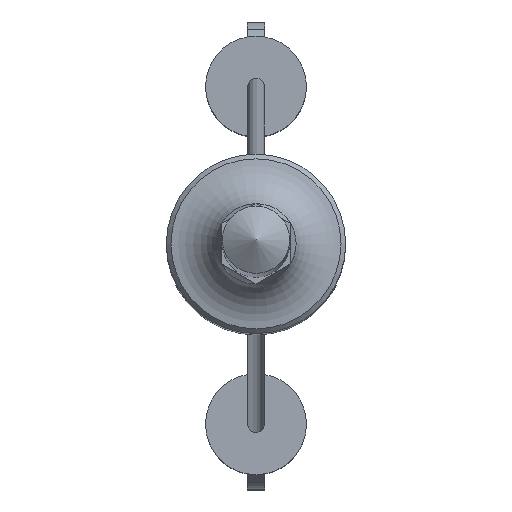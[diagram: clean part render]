
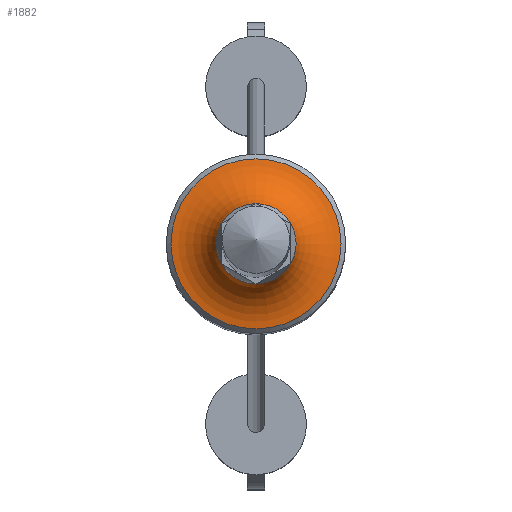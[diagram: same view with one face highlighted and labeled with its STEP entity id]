
A CAD part, top view. The second image highlights one B-rep face of the part: STEP entity #1882.
In plain terms, the highlighted toroidal (fillet/blend) face has major radius 4 mm and minor radius 2.378 mm.
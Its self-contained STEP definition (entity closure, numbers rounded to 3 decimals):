
#6 = EDGE_LOOP ( 'NONE', ( #1242 ) ) ;
#13 = CARTESIAN_POINT ( 'NONE',  ( 1.79, -0.16, -3.5 ) ) ;
#17 = CARTESIAN_POINT ( 'NONE',  ( -1.79, -0.16, -3.5 ) ) ;
#33 = CARTESIAN_POINT ( 'NONE',  ( 1.625, 0.766, -3.5 ) ) ;
#42 = CARTESIAN_POINT ( 'NONE',  ( 1.476, -1.024, -3.5 ) ) ;
#48 = CARTESIAN_POINT ( 'NONE',  ( -1.625, 0.766, -3.5 ) ) ;
#58 = FACE_OUTER_BOUND ( 'NONE', #1800, .T. ) ;
#79 = CARTESIAN_POINT ( 'NONE',  ( 1.55, 0.895, -3.5 ) ) ;
#115 = CARTESIAN_POINT ( 'NONE',  ( 0., 1.79, -3.5 ) ) ;
#137 = CARTESIAN_POINT ( 'NONE',  ( -0.607, 1.691, -3.5 ) ) ;
#170 = CARTESIAN_POINT ( 'NONE',  ( -1.55, -0.895, -3.5 ) ) ;
#175 = TOROIDAL_SURFACE ( 'NONE', #1176, 4., 2.378 ) ;
#179 = ORIENTED_EDGE ( 'NONE', *, *, #463, .F. ) ;
#188 = FACE_OUTER_BOUND ( 'NONE', #6, .T. ) ;
#189 = ORIENTED_EDGE ( 'NONE', *, *, #1764, .F. ) ;
#192 = CARTESIAN_POINT ( 'NONE',  ( 0.304, 1.771, -3.5 ) ) ;
#197 = DIRECTION ( 'NONE',  ( 1., 0., 0. ) ) ;
#201 = VERTEX_POINT ( 'NONE', #966 ) ;
#203 = CARTESIAN_POINT ( 'NONE',  ( 1.55, -0.895, -3.5 ) ) ;
#267 = B_SPLINE_CURVE_WITH_KNOTS ( 'NONE', 3,
 ( #1980, #1991, #1472, #491, #853, #1320, #1669, #192, #326, #511 ),
 .UNSPECIFIED., .F., .F.,
 ( 4, 2, 2, 2, 4 ),
 ( 0., 0.25, 0.5, 0.75, 1. ),
 .UNSPECIFIED. ) ;
#268 = EDGE_CURVE ( 'NONE', #1498, #1046, #267, .T. ) ;
#281 = AXIS2_PLACEMENT_3D ( 'NONE', #705, #1972, #1693 ) ;
#326 = CARTESIAN_POINT ( 'NONE',  ( 0.149, 1.79, -3.5 ) ) ;
#368 = CARTESIAN_POINT ( 'NONE',  ( 1.55, -0.895, -3.5 ) ) ;
#378 = CARTESIAN_POINT ( 'NONE',  ( 1.768, 0.32, -3.5 ) ) ;
#396 = CARTESIAN_POINT ( 'NONE',  ( -1.686, 0.623, -3.5 ) ) ;
#463 = EDGE_CURVE ( 'NONE', #201, #1024, #474, .T. ) ;
#474 = B_SPLINE_CURVE_WITH_KNOTS ( 'NONE', 3,
 ( #1712, #1722, #1028, #1843, #2003, #1393, #1543, #2013, #42, #368 ),
 .UNSPECIFIED., .F., .F.,
 ( 4, 2, 2, 2, 4 ),
 ( 0., 0.25, 0.5, 0.75, 1. ),
 .UNSPECIFIED. ) ;
#476 = CARTESIAN_POINT ( 'NONE',  ( -0.304, -1.771, -3.5 ) ) ;
#481 = CARTESIAN_POINT ( 'NONE',  ( -1.033, 1.47, -3.5 ) ) ;
#487 = VERTEX_POINT ( 'NONE', #1931 ) ;
#491 = CARTESIAN_POINT ( 'NONE',  ( 1.161, 1.371, -3.5 ) ) ;
#511 = CARTESIAN_POINT ( 'NONE',  ( 0., 1.79, -3.5 ) ) ;
#518 = CARTESIAN_POINT ( 'NONE',  ( -1.686, -0.623, -3.5 ) ) ;
#525 = CARTESIAN_POINT ( 'NONE',  ( 1.768, -0.32, -3.5 ) ) ;
#573 = VERTEX_POINT ( 'NONE', #756 ) ;
#597 = ORIENTED_EDGE ( 'NONE', *, *, #796, .F. ) ;
#641 = CARTESIAN_POINT ( 'NONE',  ( -0.607, -1.691, -3.5 ) ) ;
#705 = CARTESIAN_POINT ( 'NONE',  ( 0., 0., -4.991 ) ) ;
#756 = CARTESIAN_POINT ( 'NONE',  ( -1.55, -0.895, -3.5 ) ) ;
#771 = CARTESIAN_POINT ( 'NONE',  ( -0.149, 1.79, -3.5 ) ) ;
#774 = CARTESIAN_POINT ( 'NONE',  ( -1.55, -0.895, -3.5 ) ) ;
#796 = EDGE_CURVE ( 'NONE', #573, #201, #1334, .T. ) ;
#817 = B_SPLINE_CURVE_WITH_KNOTS ( 'NONE', 3,
 ( #1212, #48, #396, #1054, #1496, #17, #1985, #518, #1171, #774 ),
 .UNSPECIFIED., .F., .F.,
 ( 4, 2, 2, 2, 4 ),
 ( 0., 0.25, 0.5, 0.75, 1. ),
 .UNSPECIFIED. ) ;
#825 = CARTESIAN_POINT ( 'NONE',  ( 1.55, -0.895, -3.5 ) ) ;
#853 = CARTESIAN_POINT ( 'NONE',  ( 1.033, 1.47, -3.5 ) ) ;
#930 = ORIENTED_EDGE ( 'NONE', *, *, #1973, .F. ) ;
#956 = B_SPLINE_CURVE_WITH_KNOTS ( 'NONE', 3,
 ( #115, #771, #1923, #137, #1783, #481, #1429, #2103, #1935, #2082 ),
 .UNSPECIFIED., .F., .F.,
 ( 4, 2, 2, 2, 4 ),
 ( 0., 0.25, 0.5, 0.75, 1. ),
 .UNSPECIFIED. ) ;
#966 = CARTESIAN_POINT ( 'NONE',  ( 0., -1.79, -3.5 ) ) ;
#1024 = VERTEX_POINT ( 'NONE', #825 ) ;
#1028 = CARTESIAN_POINT ( 'NONE',  ( 0.304, -1.771, -3.5 ) ) ;
#1046 = VERTEX_POINT ( 'NONE', #1983 ) ;
#1054 = CARTESIAN_POINT ( 'NONE',  ( -1.768, 0.32, -3.5 ) ) ;
#1128 = B_SPLINE_CURVE_WITH_KNOTS ( 'NONE', 3,
 ( #203, #1650, #1511, #525, #13, #1189, #378, #1846, #33, #1821 ),
 .UNSPECIFIED., .F., .F.,
 ( 4, 2, 2, 2, 4 ),
 ( 0., 0.25, 0.5, 0.75, 1. ),
 .UNSPECIFIED. ) ;
#1154 = CARTESIAN_POINT ( 'NONE',  ( -0.757, -1.63, -3.5 ) ) ;
#1171 = CARTESIAN_POINT ( 'NONE',  ( -1.625, -0.766, -3.5 ) ) ;
#1176 = AXIS2_PLACEMENT_3D ( 'NONE', #1345, #1872, #197 ) ;
#1189 = CARTESIAN_POINT ( 'NONE',  ( 1.79, 0.16, -3.5 ) ) ;
#1212 = CARTESIAN_POINT ( 'NONE',  ( -1.55, 0.895, -3.5 ) ) ;
#1242 = ORIENTED_EDGE ( 'NONE', *, *, #1780, .T. ) ;
#1297 = CARTESIAN_POINT ( 'NONE',  ( -0.149, -1.79, -3.5 ) ) ;
#1316 = CARTESIAN_POINT ( 'NONE',  ( -1.161, -1.371, -3.5 ) ) ;
#1320 = CARTESIAN_POINT ( 'NONE',  ( 0.757, 1.63, -3.5 ) ) ;
#1334 = B_SPLINE_CURVE_WITH_KNOTS ( 'NONE', 3,
 ( #170, #1499, #1630, #1316, #1949, #1154, #641, #476, #1297, #1968 ),
 .UNSPECIFIED., .F., .F.,
 ( 4, 2, 2, 2, 4 ),
 ( 0., 0.25, 0.5, 0.75, 1. ),
 .UNSPECIFIED. ) ;
#1345 = CARTESIAN_POINT ( 'NONE',  ( 0., 0., -2.622 ) ) ;
#1383 = EDGE_CURVE ( 'NONE', #1046, #487, #956, .T. ) ;
#1393 = CARTESIAN_POINT ( 'NONE',  ( 1.033, -1.47, -3.5 ) ) ;
#1413 = ORIENTED_EDGE ( 'NONE', *, *, #1383, .F. ) ;
#1429 = CARTESIAN_POINT ( 'NONE',  ( -1.161, 1.371, -3.5 ) ) ;
#1456 = CARTESIAN_POINT ( 'NONE',  ( 3.791, 0., -4.991 ) ) ;
#1472 = CARTESIAN_POINT ( 'NONE',  ( 1.382, 1.148, -3.5 ) ) ;
#1496 = CARTESIAN_POINT ( 'NONE',  ( -1.79, 0.16, -3.5 ) ) ;
#1498 = VERTEX_POINT ( 'NONE', #79 ) ;
#1499 = CARTESIAN_POINT ( 'NONE',  ( -1.476, -1.024, -3.5 ) ) ;
#1511 = CARTESIAN_POINT ( 'NONE',  ( 1.686, -0.623, -3.5 ) ) ;
#1543 = CARTESIAN_POINT ( 'NONE',  ( 1.161, -1.371, -3.5 ) ) ;
#1630 = CARTESIAN_POINT ( 'NONE',  ( -1.382, -1.148, -3.5 ) ) ;
#1645 = VERTEX_POINT ( 'NONE', #1456 ) ;
#1650 = CARTESIAN_POINT ( 'NONE',  ( 1.625, -0.766, -3.5 ) ) ;
#1669 = CARTESIAN_POINT ( 'NONE',  ( 0.607, 1.691, -3.5 ) ) ;
#1693 = DIRECTION ( 'NONE',  ( 1., 0., 0. ) ) ;
#1712 = CARTESIAN_POINT ( 'NONE',  ( 0., -1.79, -3.5 ) ) ;
#1722 = CARTESIAN_POINT ( 'NONE',  ( 0.149, -1.79, -3.5 ) ) ;
#1764 = EDGE_CURVE ( 'NONE', #1024, #1498, #1128, .T. ) ;
#1780 = EDGE_CURVE ( 'NONE', #1645, #1645, #1897, .T. ) ;
#1783 = CARTESIAN_POINT ( 'NONE',  ( -0.757, 1.63, -3.5 ) ) ;
#1800 = EDGE_LOOP ( 'NONE', ( #1863, #189, #179, #597, #930, #1413 ) ) ;
#1821 = CARTESIAN_POINT ( 'NONE',  ( 1.55, 0.895, -3.5 ) ) ;
#1843 = CARTESIAN_POINT ( 'NONE',  ( 0.607, -1.691, -3.5 ) ) ;
#1846 = CARTESIAN_POINT ( 'NONE',  ( 1.686, 0.623, -3.5 ) ) ;
#1863 = ORIENTED_EDGE ( 'NONE', *, *, #268, .F. ) ;
#1872 = DIRECTION ( 'NONE',  ( 0., 0., 1. ) ) ;
#1882 = ADVANCED_FACE ( 'NONE', ( #188, #58 ), #175, .F. ) ;
#1897 = CIRCLE ( 'NONE', #281, 3.791 ) ;
#1923 = CARTESIAN_POINT ( 'NONE',  ( -0.304, 1.771, -3.5 ) ) ;
#1931 = CARTESIAN_POINT ( 'NONE',  ( -1.55, 0.895, -3.5 ) ) ;
#1935 = CARTESIAN_POINT ( 'NONE',  ( -1.476, 1.024, -3.5 ) ) ;
#1949 = CARTESIAN_POINT ( 'NONE',  ( -1.033, -1.47, -3.5 ) ) ;
#1968 = CARTESIAN_POINT ( 'NONE',  ( 0., -1.79, -3.5 ) ) ;
#1972 = DIRECTION ( 'NONE',  ( 0., 0., 1. ) ) ;
#1973 = EDGE_CURVE ( 'NONE', #487, #573, #817, .T. ) ;
#1980 = CARTESIAN_POINT ( 'NONE',  ( 1.55, 0.895, -3.5 ) ) ;
#1983 = CARTESIAN_POINT ( 'NONE',  ( 0., 1.79, -3.5 ) ) ;
#1985 = CARTESIAN_POINT ( 'NONE',  ( -1.768, -0.32, -3.5 ) ) ;
#1991 = CARTESIAN_POINT ( 'NONE',  ( 1.476, 1.024, -3.5 ) ) ;
#2003 = CARTESIAN_POINT ( 'NONE',  ( 0.757, -1.63, -3.5 ) ) ;
#2013 = CARTESIAN_POINT ( 'NONE',  ( 1.382, -1.148, -3.5 ) ) ;
#2082 = CARTESIAN_POINT ( 'NONE',  ( -1.55, 0.895, -3.5 ) ) ;
#2103 = CARTESIAN_POINT ( 'NONE',  ( -1.382, 1.148, -3.5 ) ) ;
